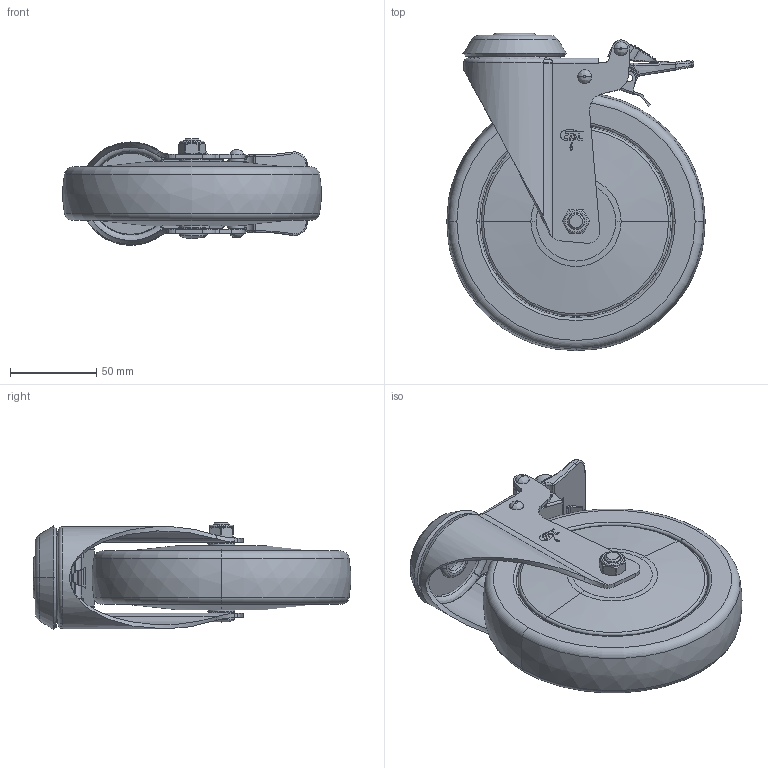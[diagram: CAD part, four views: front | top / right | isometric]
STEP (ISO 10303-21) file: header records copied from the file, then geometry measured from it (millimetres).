
FILE_DESCRIPTION((''),'2;1');
FILE_NAME('57286H-576-77_ASM','2021-01-05T',('lenovo'),(''),'PRO/ENGINEER BY PARAMETRIC TECHNOLOGY CORPORATION, 2010280','PRO/ENGINEER BY PARAMETRIC TECHNOLOGY CORPORATION, 2010280','');
FILE_SCHEMA(('CONFIG_CONTROL_DESIGN'));
Length unit declared in the file: millimetre
Products named in the file (10): 5710-058; 5726-321; 5720-211; 576-77; 5710-020; 5710-031; 570-64OFF; 5734-401; 571-64ON; 57286H-576-77_ASM
Assembly tree (9 placements, depth 2):
  57286H-576-77_ASM
    5710-058
    5726-321
    5720-211
    576-77
    5710-020
    5710-031
    570-64OFF
    5734-401
    571-64ON
Bounding box: 149.8 x 183.9 x 62 mm (x, y, z)
Volume: 658464.3 mm3; surface area: 113076.3 mm2
Topology: 9 solids, 9 shells, 816 faces, 2118 edges, 1343 vertices
Faces by surface type: plane 420, cylinder 205, bspline 82, cone 64, torus 41, sphere 4
Entity records: 28591 total; most frequent: CARTESIAN_POINT 8822, ORIENTED_EDGE 4228, DIRECTION 3905, EDGE_CURVE 2114, AXIS2_PLACEMENT_3D 1353, VERTEX_POINT 1343, VECTOR 1199, LINE 1199
